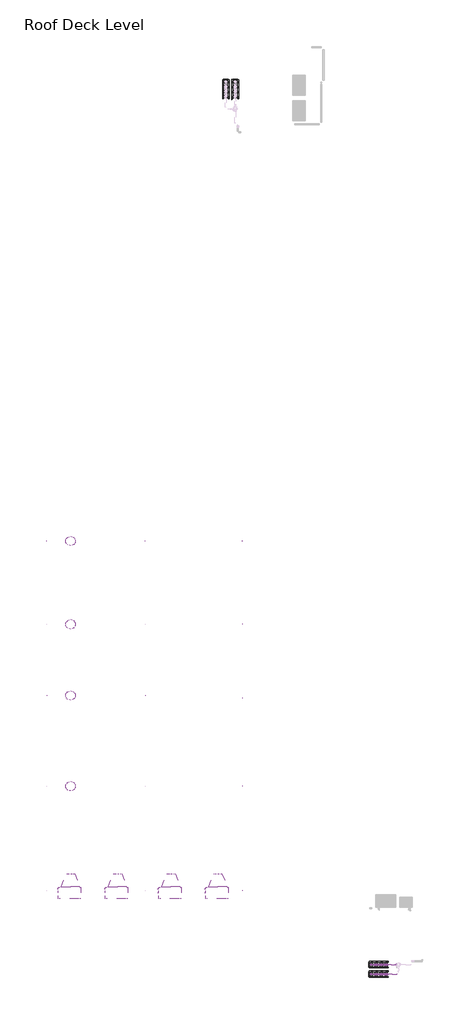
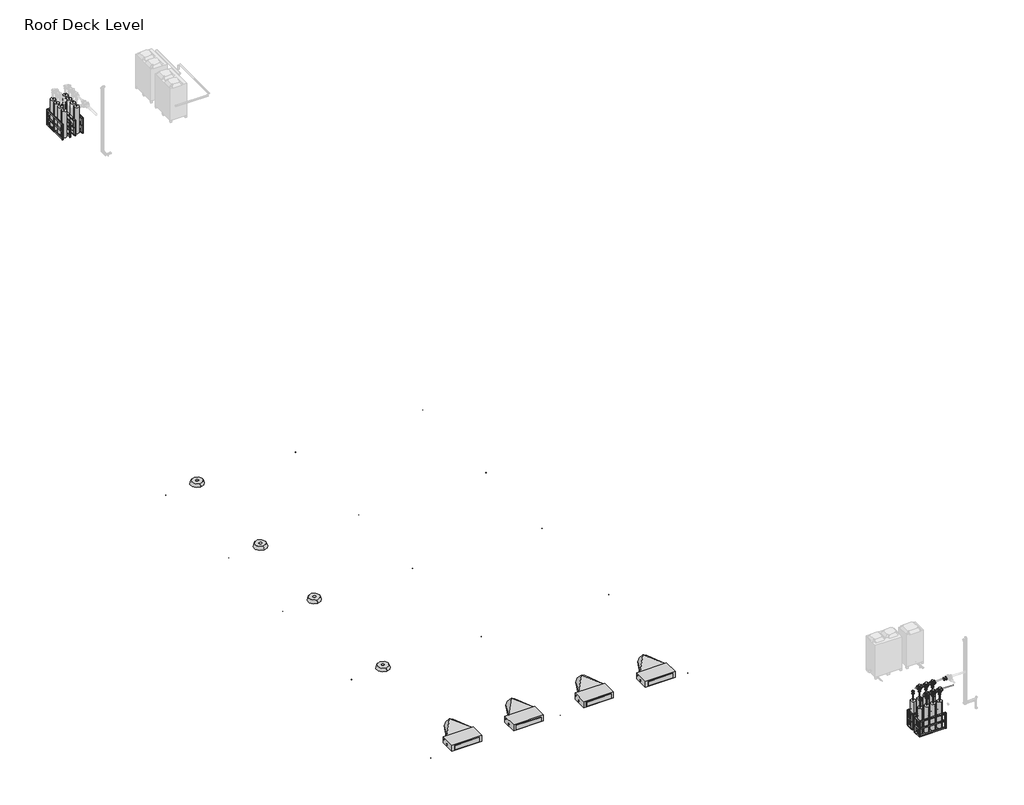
# One storey, part 1 of 3: 16 pipe segments, 15 light fixtures, 15 pipe fittings, 4 air terminals, 4 duct fittings, 4 flow terminals, 4 proxies.
"""IFC4 building model written with IfcOpenShell, lengths in millimetres."""

from ifc_helpers import new_model, si_unit, point, frame, frame_2d, origin, place, context, project, spatial, circle_curve, trimmed, segment, composite_curve, outline, extrude, transform, mapped, element, save
from components import m_supply_diffuser_circular_round_neck_ceiling_mounted_600_mm_208f270a, fcu_daikin_iu_5a1bd61d, m_rectangular_to_round_transition_angle_45_degree_78946b4e, flow_terminal_4c00ecbf, m_studio_light_120v_2dcb9a91, m_reducer_flanged_cs_class_150_standard_b6b67c23, m_reducer_flanged_cs_class_150_standard_6ae1fdcb, m_reducer_flanged_cs_class_150_standard_13db1923, m_tee_round_base_flanged_cs_class_150_standard_9c9133d0

model = new_model("IFC4")

# Units and contexts
model_context = context("Model", 3, world=origin())
ifc_project = project(units=[si_unit("LENGTHUNIT", "METRE", prefix="MILLI")], contexts=[model_context])

# Site, building, storey
site = spatial("IfcSite", under=ifc_project)
building = spatial("IfcBuilding", under=site)
storey = spatial("IfcBuildingStorey", under=building, Name="Roof Deck Level", Elevation=4400.0)

# Air terminals
placement = place(None, origin())
m_supply_diffuser_circular_round_neck_ceiling_mounted_600_mm_shape = m_supply_diffuser_circular_round_neck_ceiling_mounted_600_mm_208f270a(model_context)
element("IfcAirTerminal", 1, ObjectType="M_Supply Diffuser - Circular - Round Neck - Ceiling Mounted : 600 mm Face 500 mm Neck", at=placement, inside=storey, context=model_context, shape_type="MappedRepresentation", body=[
    mapped(m_supply_diffuser_circular_round_neck_ceiling_mounted_600_mm_shape, transform((-16150.3527512, -9864.9909647, 7272.7131214), x_axis=(0.0, 0.9999999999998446, -5.576948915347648e-07), y_axis=(1.0000000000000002, 0.0, 0.0), z_axis=(0.0, -5.576948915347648e-07, -0.9999999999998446))),
])
element("IfcAirTerminal", 2, ObjectType="M_Supply Diffuser - Circular - Round Neck - Ceiling Mounted : 600 mm Face 500 mm Neck", at=placement, inside=storey, context=model_context, shape_type="MappedRepresentation", body=[
    mapped(m_supply_diffuser_circular_round_neck_ceiling_mounted_600_mm_shape, transform((-16150.3527512, -15012.9908891, 7272.7159924), x_axis=(0.0, 0.9999999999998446, -5.576948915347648e-07), y_axis=(1.0000000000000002, 0.0, 0.0), z_axis=(0.0, -5.576948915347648e-07, -0.9999999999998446))),
])
element("IfcAirTerminal", 3, ObjectType="M_Supply Diffuser - Circular - Round Neck - Ceiling Mounted : 600 mm Face 500 mm Neck", at=placement, inside=storey, context=model_context, shape_type="MappedRepresentation", body=[
    mapped(m_supply_diffuser_circular_round_neck_ceiling_mounted_600_mm_shape, transform((-16150.3527512, -19404.9911041, 7272.7184418), x_axis=(0.0, 0.9999999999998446, -5.576948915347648e-07), y_axis=(1.0000000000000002, 0.0, 0.0), z_axis=(0.0, -5.576948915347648e-07, -0.9999999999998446))),
])
element("IfcAirTerminal", 4, ObjectType="M_Supply Diffuser - Circular - Round Neck - Ceiling Mounted : 600 mm Face 500 mm Neck", at=placement, inside=storey, context=model_context, shape_type="MappedRepresentation", body=[
    mapped(m_supply_diffuser_circular_round_neck_ceiling_mounted_600_mm_shape, transform((-16150.3527512, -25004.9911041, 7272.7215649), x_axis=(0.0, 0.9999999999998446, -5.576948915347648e-07), y_axis=(1.0000000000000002, 0.0, 0.0), z_axis=(0.0, -5.576948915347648e-07, -0.9999999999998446))),
])

# Proxies
fcu_daikin_iu_shape = fcu_daikin_iu_5a1bd61d(model_context)
element("IfcBuildingElementProxy", 5, Name="FCU-DAIKIN IU : 12.9kW, 230V/50Hz/1Ph", ObjectType="FCU-DAIKIN IU : 12.9kW, 230V/50Hz/1Ph", at=placement, inside=storey, context=model_context, shape_type="MappedRepresentation", body=[
    mapped(fcu_daikin_iu_shape, transform((-16213.8527512, -31596.4125677, 7600.0), x_axis=(-1.0, 0.0, 0.0), y_axis=(0.0, -1.0, 0.0), z_axis=(0.0, 0.0, 1.0))),
])
element("IfcBuildingElementProxy", 6, Name="FCU-DAIKIN IU : 12.9kW, 230V/50Hz/1Ph", ObjectType="FCU-DAIKIN IU : 12.9kW, 230V/50Hz/1Ph", at=placement, inside=storey, context=model_context, shape_type="MappedRepresentation", body=[
    mapped(fcu_daikin_iu_shape, transform((-13313.8527512, -31596.4125677, 7600.0), x_axis=(-1.0, 0.0, 0.0), y_axis=(0.0, -1.0, 0.0), z_axis=(0.0, 0.0, 1.0))),
])
element("IfcBuildingElementProxy", 7, Name="FCU-DAIKIN IU : 12.9kW, 230V/50Hz/1Ph", ObjectType="FCU-DAIKIN IU : 12.9kW, 230V/50Hz/1Ph", at=placement, inside=storey, context=model_context, shape_type="MappedRepresentation", body=[
    mapped(fcu_daikin_iu_shape, transform((-10013.8527512, -31596.4125677, 7600.0), x_axis=(-1.0, 0.0, 0.0), y_axis=(0.0, -1.0, 0.0), z_axis=(0.0, 0.0, 1.0))),
])
element("IfcBuildingElementProxy", 8, Name="FCU-DAIKIN IU : 12.9kW, 230V/50Hz/1Ph", ObjectType="FCU-DAIKIN IU : 12.9kW, 230V/50Hz/1Ph", at=placement, inside=storey, context=model_context, shape_type="MappedRepresentation", body=[
    mapped(fcu_daikin_iu_shape, transform((-7113.8527512, -31596.4125677, 7600.0), x_axis=(-1.0, 0.0, 0.0), y_axis=(0.0, -1.0, 0.0), z_axis=(0.0, 0.0, 1.0))),
])

# Duct fittings
m_rectangular_to_round_transition_angle_45_degree_shape = m_rectangular_to_round_transition_angle_45_degree_78946b4e(model_context)
element("IfcDuctFitting", 9, ObjectType="M_Rectangular to Round Transition - Angle : 45 Degree", at=placement, inside=storey, context=model_context, shape_type="MappedRepresentation", body=[
    mapped(m_rectangular_to_round_transition_angle_45_degree_shape, transform((-16150.3527512, -31221.0125677, 7765.9125), x_axis=(0.0, 1.0, 0.0), y_axis=(-1.0, 0.0, 0.0), z_axis=(0.0, 0.0, 1.0))),
])
element("IfcDuctFitting", 10, ObjectType="M_Rectangular to Round Transition - Angle : 45 Degree", at=placement, inside=storey, context=model_context, shape_type="MappedRepresentation", body=[
    mapped(m_rectangular_to_round_transition_angle_45_degree_shape, transform((-13250.3527512, -31221.0125677, 7765.9125), x_axis=(0.0, 1.0, 0.0), y_axis=(-1.0, 0.0, 0.0), z_axis=(0.0, 0.0, 1.0))),
])
element("IfcDuctFitting", 11, ObjectType="M_Rectangular to Round Transition - Angle : 45 Degree", at=placement, inside=storey, context=model_context, shape_type="MappedRepresentation", body=[
    mapped(m_rectangular_to_round_transition_angle_45_degree_shape, transform((-9950.3527512, -31221.0125677, 7765.9125), x_axis=(0.0, 1.0, 0.0), y_axis=(-1.0, 0.0, 0.0), z_axis=(0.0, 0.0, 1.0))),
])
element("IfcDuctFitting", 12, ObjectType="M_Rectangular to Round Transition - Angle : 45 Degree", at=placement, inside=storey, context=model_context, shape_type="MappedRepresentation", body=[
    mapped(m_rectangular_to_round_transition_angle_45_degree_shape, transform((-7050.3527512, -31221.0125677, 7765.9125), x_axis=(0.0, 1.0, 0.0), y_axis=(-1.0, 0.0, 0.0), z_axis=(0.0, 0.0, 1.0))),
])

# Flow terminals
flow_terminal_shape = flow_terminal_4c00ecbf(model_context)
element("IfcFlowTerminal", 13, ObjectType="Gas_Cylinder_Rack_4_Tanks_1x4_USAsafetycom_18954 : Gas_Cylinder_Rack_4_Tanks_1x4_USAsafetycom_18954", at=placement, inside=storey, context=model_context, shape_type="MappedRepresentation", body=[
    mapped(flow_terminal_shape, transform((-6181.330502, 18664.3611936, 4550.0), x_axis=(1.0, 0.0, 0.0), y_axis=(0.0, 1.0, 0.0), z_axis=(0.0, 0.0, 1.0))),
])
element("IfcFlowTerminal", 14, ObjectType="Gas_Cylinder_Rack_4_Tanks_1x4_USAsafetycom_18954 : Gas_Cylinder_Rack_4_Tanks_1x4_USAsafetycom_18954", at=placement, inside=storey, context=model_context, shape_type="MappedRepresentation", body=[
    mapped(flow_terminal_shape, transform((-6766.0546656, 18664.3611936, 4550.0), x_axis=(1.0, 0.0, 0.0), y_axis=(0.0, 1.0, 0.0), z_axis=(0.0, 0.0, 1.0))),
])
element("IfcFlowTerminal", 15, ObjectType="Gas_Cylinder_Rack_4_Tanks_1x4_USAsafetycom_18954 : Gas_Cylinder_Rack_4_Tanks_1x4_USAsafetycom_18954", at=placement, inside=storey, context=model_context, shape_type="MappedRepresentation", body=[
    mapped(flow_terminal_shape, transform((2259.9831599, -36236.9985971, 4550.0), x_axis=(0.0, 1.0, 0.0), y_axis=(-1.0, 0.0, 0.0), z_axis=(0.0, 0.0, 1.0))),
])
element("IfcFlowTerminal", 16, ObjectType="Gas_Cylinder_Rack_4_Tanks_1x4_USAsafetycom_18954 : Gas_Cylinder_Rack_4_Tanks_1x4_USAsafetycom_18954", at=placement, inside=storey, context=model_context, shape_type="MappedRepresentation", body=[
    mapped(flow_terminal_shape, transform((2259.9831599, -36821.7227607, 4550.0), x_axis=(0.0, 1.0, 0.0), y_axis=(-1.0, 0.0, 0.0), z_axis=(0.0, 0.0, 1.0))),
])

# Light fixtures
m_studio_light_120v_shape = m_studio_light_120v_2dcb9a91(model_context)
element("IfcLightFixture", 17, ObjectType="M_Studio Light : 120V", at=placement, inside=storey, context=model_context, shape_type="MappedRepresentation", body=[
    mapped(m_studio_light_120v_shape, transform((-11527.2327605, -9864.7846466, 4800.0), x_axis=(1.0, 0.0, 0.0), y_axis=(0.0, 1.0, 0.0), z_axis=(0.0, 0.0, 1.0))),
])
element("IfcLightFixture", 18, ObjectType="M_Studio Light : 120V", at=placement, inside=storey, context=model_context, shape_type="MappedRepresentation", body=[
    mapped(m_studio_light_120v_shape, transform((-11527.2327605, -15012.7846466, 4800.0), x_axis=(1.0, 0.0, 0.0), y_axis=(0.0, 1.0, 0.0), z_axis=(0.0, 0.0, 1.0))),
])
element("IfcLightFixture", 19, ObjectType="M_Studio Light : 120V", at=placement, inside=storey, context=model_context, shape_type="MappedRepresentation", body=[
    mapped(m_studio_light_120v_shape, transform((-11527.2327605, -19404.7846466, 4800.0), x_axis=(1.0, 0.0, 0.0), y_axis=(0.0, 1.0, 0.0), z_axis=(0.0, 0.0, 1.0))),
])
element("IfcLightFixture", 20, ObjectType="M_Studio Light : 120V", at=placement, inside=storey, context=model_context, shape_type="MappedRepresentation", body=[
    mapped(m_studio_light_120v_shape, transform((-11527.2327605, -25004.7846466, 4800.0), x_axis=(1.0, 0.0, 0.0), y_axis=(0.0, 1.0, 0.0), z_axis=(0.0, 0.0, 1.0))),
])
element("IfcLightFixture", 21, ObjectType="M_Studio Light : 120V", at=placement, inside=storey, context=model_context, shape_type="MappedRepresentation", body=[
    mapped(m_studio_light_120v_shape, transform((-11527.2327605, -31454.7846468, 4800.0), x_axis=(1.0, 0.0, 0.0), y_axis=(0.0, 1.0, 0.0), z_axis=(0.0, 0.0, 1.0))),
])
element("IfcLightFixture", 22, ObjectType="M_Studio Light : 120V", at=placement, inside=storey, context=model_context, shape_type="MappedRepresentation", body=[
    mapped(m_studio_light_120v_shape, transform((-17631.8152535, -9864.7846466, 4800.0), x_axis=(1.0, 0.0, 0.0), y_axis=(0.0, 1.0, 0.0), z_axis=(0.0, 0.0, 1.0))),
])
element("IfcLightFixture", 23, ObjectType="M_Studio Light : 120V", at=placement, inside=storey, context=model_context, shape_type="MappedRepresentation", body=[
    mapped(m_studio_light_120v_shape, transform((-17631.8152535, -15012.7846466, 4800.0), x_axis=(1.0, 0.0, 0.0), y_axis=(0.0, 1.0, 0.0), z_axis=(0.0, 0.0, 1.0))),
])
element("IfcLightFixture", 24, ObjectType="M_Studio Light : 120V", at=placement, inside=storey, context=model_context, shape_type="MappedRepresentation", body=[
    mapped(m_studio_light_120v_shape, transform((-17631.8152535, -19404.7846466, 4800.0), x_axis=(1.0, 0.0, 0.0), y_axis=(0.0, 1.0, 0.0), z_axis=(0.0, 0.0, 1.0))),
])
element("IfcLightFixture", 25, ObjectType="M_Studio Light : 120V", at=placement, inside=storey, context=model_context, shape_type="MappedRepresentation", body=[
    mapped(m_studio_light_120v_shape, transform((-17631.8152535, -25004.7846466, 4800.0), x_axis=(1.0, 0.0, 0.0), y_axis=(0.0, 1.0, 0.0), z_axis=(0.0, 0.0, 1.0))),
])
element("IfcLightFixture", 26, ObjectType="M_Studio Light : 120V", at=placement, inside=storey, context=model_context, shape_type="MappedRepresentation", body=[
    mapped(m_studio_light_120v_shape, transform((-17631.8152535, -31454.7846468, 4800.0), x_axis=(1.0, 0.0, 0.0), y_axis=(0.0, 1.0, 0.0), z_axis=(0.0, 0.0, 1.0))),
])
element("IfcLightFixture", 27, ObjectType="M_Studio Light : 120V", at=placement, inside=storey, context=model_context, shape_type="MappedRepresentation", body=[
    mapped(m_studio_light_120v_shape, transform((-5533.240678, -9864.7846466, 4800.0), x_axis=(1.0, 0.0, 0.0), y_axis=(0.0, 1.0, 0.0), z_axis=(0.0, 0.0, 1.0))),
])
element("IfcLightFixture", 28, ObjectType="M_Studio Light : 120V", at=placement, inside=storey, context=model_context, shape_type="MappedRepresentation", body=[
    mapped(m_studio_light_120v_shape, transform((-5533.240678, -15012.7846466, 4800.0), x_axis=(1.0, 0.0, 0.0), y_axis=(0.0, 1.0, 0.0), z_axis=(0.0, 0.0, 1.0))),
])
element("IfcLightFixture", 29, ObjectType="M_Studio Light : 120V", at=placement, inside=storey, context=model_context, shape_type="MappedRepresentation", body=[
    mapped(m_studio_light_120v_shape, transform((-5533.240678, -19574.7846466, 4800.0), x_axis=(1.0, 0.0, 0.0), y_axis=(0.0, 1.0, 0.0), z_axis=(0.0, 0.0, 1.0))),
])
element("IfcLightFixture", 30, ObjectType="M_Studio Light : 120V", at=placement, inside=storey, context=model_context, shape_type="MappedRepresentation", body=[
    mapped(m_studio_light_120v_shape, transform((-5533.240678, -25004.7846466, 4800.0), x_axis=(1.0, 0.0, 0.0), y_axis=(0.0, 1.0, 0.0), z_axis=(0.0, 0.0, 1.0))),
])
element("IfcLightFixture", 31, ObjectType="M_Studio Light : 120V", at=placement, inside=storey, context=model_context, shape_type="MappedRepresentation", body=[
    mapped(m_studio_light_120v_shape, transform((-5533.240678, -31454.7846468, 4800.0), x_axis=(1.0, 0.0, 0.0), y_axis=(0.0, 1.0, 0.0), z_axis=(0.0, 0.0, 1.0))),
])

# Pipe fittings
m_reducer_flanged_cs_class_150_standard_shape = m_reducer_flanged_cs_class_150_standard_b6b67c23(model_context)
element("IfcPipeFitting", 32, ObjectType="M_Reducer - Flanged - CS - Class 150 : Standard", at=placement, inside=storey, context=model_context, shape_type="MappedRepresentation", body=[
    mapped(m_reducer_flanged_cs_class_150_standard_shape, transform((2729.8831599, -36618.5227607, 6293.9014063), x_axis=(0.0, 0.0, -1.0), y_axis=(1.0, 0.0, 0.0), z_axis=(0.0, -1.0, 0.0))),
])
element("IfcPipeFitting", 33, ObjectType="M_Reducer - Flanged - CS - Class 150 : Standard", at=placement, inside=storey, context=model_context, shape_type="MappedRepresentation", body=[
    mapped(m_reducer_flanged_cs_class_150_standard_shape, transform((3339.4831599, -36618.5227607, 6293.9014063), x_axis=(0.0, 0.0, -1.0), y_axis=(1.0, 0.0, 0.0), z_axis=(0.0, -1.0, 0.0))),
])
element("IfcPipeFitting", 34, ObjectType="M_Reducer - Flanged - CS - Class 150 : Standard", at=placement, inside=storey, context=model_context, shape_type="MappedRepresentation", body=[
    mapped(m_reducer_flanged_cs_class_150_standard_shape, transform((2729.8831599, -36033.7985971, 6293.9014063), x_axis=(0.0, 0.0, -1.0), y_axis=(1.0, 0.0, 0.0), z_axis=(0.0, -1.0, 0.0))),
])
element("IfcPipeFitting", 35, ObjectType="M_Reducer - Flanged - CS - Class 150 : Standard", at=placement, inside=storey, context=model_context, shape_type="MappedRepresentation", body=[
    mapped(m_reducer_flanged_cs_class_150_standard_shape, transform((3339.4831599, -36033.7985971, 6293.9014063), x_axis=(0.0, 0.0, -1.0), y_axis=(1.0, 0.0, 0.0), z_axis=(0.0, -1.0, 0.0))),
])
m_reducer_flanged_cs_class_150_standard_2_shape = m_reducer_flanged_cs_class_150_standard_6ae1fdcb(model_context)
element("IfcPipeFitting", 36, ObjectType="M_Reducer - Flanged - CS - Class 150 : Standard", at=placement, inside=storey, context=model_context, shape_type="MappedRepresentation", body=[
    mapped(m_reducer_flanged_cs_class_150_standard_2_shape, transform((2425.0831599, -36618.5227607, 6293.9014063), x_axis=(0.0, 0.0, -1.0), y_axis=(0.0, -1.0, 0.0), z_axis=(-1.0, 0.0, 0.0))),
])
element("IfcPipeFitting", 37, ObjectType="M_Reducer - Flanged - CS - Class 150 : Standard", at=placement, inside=storey, context=model_context, shape_type="MappedRepresentation", body=[
    mapped(m_reducer_flanged_cs_class_150_standard_2_shape, transform((3034.6831599, -36618.5227607, 6293.9014063), x_axis=(0.0, 0.0, -1.0), y_axis=(0.0, -1.0, 0.0), z_axis=(-1.0, 0.0, 0.0))),
])
element("IfcPipeFitting", 38, ObjectType="M_Reducer - Flanged - CS - Class 150 : Standard", at=placement, inside=storey, context=model_context, shape_type="MappedRepresentation", body=[
    mapped(m_reducer_flanged_cs_class_150_standard_2_shape, transform((2425.0831599, -36033.7985971, 6293.9014063), x_axis=(0.0, 0.0, -1.0), y_axis=(0.0, -1.0, 0.0), z_axis=(-1.0, 0.0, 0.0))),
])
element("IfcPipeFitting", 39, ObjectType="M_Reducer - Flanged - CS - Class 150 : Standard", at=placement, inside=storey, context=model_context, shape_type="MappedRepresentation", body=[
    mapped(m_reducer_flanged_cs_class_150_standard_2_shape, transform((3034.6831599, -36033.7985971, 6293.9014063), x_axis=(0.0, 0.0, -1.0), y_axis=(0.0, -1.0, 0.0), z_axis=(-1.0, 0.0, 0.0))),
])
m_reducer_flanged_cs_class_150_standard_3_shape = m_reducer_flanged_cs_class_150_standard_13db1923(model_context)
element("IfcPipeFitting", 40, ObjectType="M_Reducer - Flanged - CS - Class 150 : Standard", at=placement, inside=storey, context=model_context, shape_type="MappedRepresentation", body=[
    mapped(m_reducer_flanged_cs_class_150_standard_3_shape, transform((3991.5817536, -36033.7985971, 6400.0), x_axis=(-1.0, 0.0, 0.0), y_axis=(0.0, -1.0, 0.0), z_axis=(0.0, 0.0, 1.0))),
])
m_tee_round_base_flanged_cs_class_150_standard_shape = m_tee_round_base_flanged_cs_class_150_standard_9c9133d0(model_context)
element("IfcPipeFitting", 41, ObjectType="M_Tee Round Base - Flanged - CS - Class 150 : Standard", at=placement, inside=storey, context=model_context, shape_type="MappedRepresentation", body=[
    mapped(m_tee_round_base_flanged_cs_class_150_standard_shape, transform((2729.8831599, -36618.5227607, 6400.0), x_axis=(-1.0, 0.0, 0.0), y_axis=(0.0, 0.0, 1.0), z_axis=(0.0, 1.0, 0.0))),
])
element("IfcPipeFitting", 42, ObjectType="M_Tee Round Base - Flanged - CS - Class 150 : Standard", at=placement, inside=storey, context=model_context, shape_type="MappedRepresentation", body=[
    mapped(m_tee_round_base_flanged_cs_class_150_standard_shape, transform((3034.6831599, -36618.5227607, 6400.0), x_axis=(-1.0, 0.0, 0.0), y_axis=(0.0, 0.0, 1.0), z_axis=(0.0, 1.0, 0.0))),
])
element("IfcPipeFitting", 43, ObjectType="M_Tee Round Base - Flanged - CS - Class 150 : Standard", at=placement, inside=storey, context=model_context, shape_type="MappedRepresentation", body=[
    mapped(m_tee_round_base_flanged_cs_class_150_standard_shape, transform((3339.4831599, -36618.5227607, 6400.0), x_axis=(1.0, 0.0, 0.0), y_axis=(0.0, 0.0, 1.0), z_axis=(0.0, -1.0, 0.0))),
])
element("IfcPipeFitting", 44, ObjectType="M_Tee Round Base - Flanged - CS - Class 150 : Standard", at=placement, inside=storey, context=model_context, shape_type="MappedRepresentation", body=[
    mapped(m_tee_round_base_flanged_cs_class_150_standard_shape, transform((2729.8831599, -36033.7985971, 6400.0), x_axis=(-1.0, 0.0, 0.0), y_axis=(0.0, 0.0, 1.0), z_axis=(0.0, 1.0, 0.0))),
])
element("IfcPipeFitting", 45, ObjectType="M_Tee Round Base - Flanged - CS - Class 150 : Standard", at=placement, inside=storey, context=model_context, shape_type="MappedRepresentation", body=[
    mapped(m_tee_round_base_flanged_cs_class_150_standard_shape, transform((3034.6831599, -36033.7985971, 6400.0), x_axis=(-1.0, 0.0, 0.0), y_axis=(0.0, 0.0, 1.0), z_axis=(0.0, 1.0, 0.0))),
])
element("IfcPipeFitting", 46, ObjectType="M_Tee Round Base - Flanged - CS - Class 150 : Standard", at=placement, inside=storey, context=model_context, shape_type="MappedRepresentation", body=[
    mapped(m_tee_round_base_flanged_cs_class_150_standard_shape, transform((3339.4831599, -36033.7985971, 6400.0), x_axis=(1.0, 0.0, 0.0), y_axis=(0.0, 0.0, 1.0), z_axis=(0.0, -1.0, 0.0))),
])

# Pipe segments
element("IfcPipeSegment", 47, ObjectType="Steel flanged", at=placement, inside=storey, context=model_context, shape_type="SweptSolid", body=[
    extrude(outline(composite_curve([segment(trimmed(circle_curve(frame_2d((3339.4831599, -36618.5227607)), 16.7005), [point((3322.7826599, -36618.5227607))], [point((3339.4831599, -36601.8222607))], False, "CARTESIAN"), True, "CONTINUOUS"), segment(trimmed(circle_curve(frame_2d((3339.4831599, -36618.5227607)), 16.7005), [point((3339.4831599, -36601.8222607))], [point((3356.1836599, -36618.5227607))], False, "CARTESIAN"), True, "CONTINUOUS"), segment(trimmed(circle_curve(frame_2d((3339.4831599, -36618.5227607)), 16.7005), [point((3356.1836599, -36618.5227607))], [point((3339.4831599, -36635.2232607))], False, "CARTESIAN"), True, "CONTINUOUS"), segment(trimmed(circle_curve(frame_2d((3339.4831599, -36618.5227607)), 16.7005), [point((3339.4831599, -36635.2232607))], [point((3322.7826599, -36618.5227607))], False, "CARTESIAN"), True, "CONTINUOUS")], self_intersect=False)), frame((0.0, 0.0, 5895.4), z_axis=(0.0, 0.0, 1.0), x_axis=(1.0, 0.0, 0.0)), (0.0, 0.0, 1.0), 284.5014063),
])
element("IfcPipeSegment", 48, ObjectType="Steel flanged", at=placement, inside=storey, context=model_context, shape_type="SweptSolid", body=[
    extrude(outline(composite_curve([segment(trimmed(circle_curve(frame_2d((-36618.5227607, 6400.0)), 21.082), [point((-36639.6047607, 6400.0))], [point((-36618.5227607, 6421.082))], False, "CARTESIAN"), True, "CONTINUOUS"), segment(trimmed(circle_curve(frame_2d((-36618.5227607, 6400.0)), 21.082), [point((-36618.5227607, 6421.082))], [point((-36597.4407607, 6400.0))], False, "CARTESIAN"), True, "CONTINUOUS"), segment(trimmed(circle_curve(frame_2d((-36618.5227607, 6400.0)), 21.082), [point((-36597.4407607, 6400.0))], [point((-36618.5227607, 6378.918))], False, "CARTESIAN"), True, "CONTINUOUS"), segment(trimmed(circle_curve(frame_2d((-36618.5227607, 6400.0)), 21.082), [point((-36618.5227607, 6378.918))], [point((-36639.6047607, 6400.0))], False, "CARTESIAN"), True, "CONTINUOUS")], self_intersect=False)), frame((3140.7817536, 0.0, 0.0), z_axis=(1.0, 0.0, 0.0), x_axis=(0.0, 1.0, 0.0)), (0.0, 0.0, 1.0), 92.6028125),
])
element("IfcPipeSegment", 49, ObjectType="Steel flanged", at=placement, inside=storey, context=model_context, shape_type="SweptSolid", body=[
    extrude(outline(composite_curve([segment(trimmed(circle_curve(frame_2d((2425.0831599, -36618.5227607)), 16.7005), [point((2408.3826599, -36618.5227607))], [point((2425.0831599, -36601.8222607))], False, "CARTESIAN"), True, "CONTINUOUS"), segment(trimmed(circle_curve(frame_2d((2425.0831599, -36618.5227607)), 16.7005), [point((2425.0831599, -36601.8222607))], [point((2441.7836599, -36618.5227607))], False, "CARTESIAN"), True, "CONTINUOUS"), segment(trimmed(circle_curve(frame_2d((2425.0831599, -36618.5227607)), 16.7005), [point((2441.7836599, -36618.5227607))], [point((2425.0831599, -36635.2232607))], False, "CARTESIAN"), True, "CONTINUOUS"), segment(trimmed(circle_curve(frame_2d((2425.0831599, -36618.5227607)), 16.7005), [point((2425.0831599, -36635.2232607))], [point((2408.3826599, -36618.5227607))], False, "CARTESIAN"), True, "CONTINUOUS")], self_intersect=False)), frame((0.0, 0.0, 5895.4), z_axis=(0.0, 0.0, 1.0), x_axis=(1.0, 0.0, 0.0)), (0.0, 0.0, 1.0), 284.5014063),
])
element("IfcPipeSegment", 50, ObjectType="Steel flanged", at=placement, inside=storey, context=model_context, shape_type="SweptSolid", body=[
    extrude(outline(composite_curve([segment(trimmed(circle_curve(frame_2d((-36618.5227607, 6400.0)), 21.082), [point((-36639.6047607, 6400.0))], [point((-36618.5227607, 6421.082))], False, "CARTESIAN"), True, "CONTINUOUS"), segment(trimmed(circle_curve(frame_2d((-36618.5227607, 6400.0)), 21.082), [point((-36618.5227607, 6421.082))], [point((-36597.4407607, 6400.0))], False, "CARTESIAN"), True, "CONTINUOUS"), segment(trimmed(circle_curve(frame_2d((-36618.5227607, 6400.0)), 21.082), [point((-36597.4407607, 6400.0))], [point((-36618.5227607, 6378.918))], False, "CARTESIAN"), True, "CONTINUOUS"), segment(trimmed(circle_curve(frame_2d((-36618.5227607, 6400.0)), 21.082), [point((-36618.5227607, 6378.918))], [point((-36639.6047607, 6400.0))], False, "CARTESIAN"), True, "CONTINUOUS")], self_intersect=False)), frame((2531.1817536, 0.0, 0.0), z_axis=(1.0, 0.0, 0.0), x_axis=(0.0, 1.0, 0.0)), (0.0, 0.0, 1.0), 92.6028125),
])
element("IfcPipeSegment", 51, ObjectType="Steel flanged", at=placement, inside=storey, context=model_context, shape_type="SweptSolid", body=[
    extrude(outline(composite_curve([segment(trimmed(circle_curve(frame_2d((2729.8831599, -36618.5227607)), 16.7005), [point((2713.1826599, -36618.5227607))], [point((2729.8831599, -36601.8222607))], False, "CARTESIAN"), True, "CONTINUOUS"), segment(trimmed(circle_curve(frame_2d((2729.8831599, -36618.5227607)), 16.7005), [point((2729.8831599, -36601.8222607))], [point((2746.5836599, -36618.5227607))], False, "CARTESIAN"), True, "CONTINUOUS"), segment(trimmed(circle_curve(frame_2d((2729.8831599, -36618.5227607)), 16.7005), [point((2746.5836599, -36618.5227607))], [point((2729.8831599, -36635.2232607))], False, "CARTESIAN"), True, "CONTINUOUS"), segment(trimmed(circle_curve(frame_2d((2729.8831599, -36618.5227607)), 16.7005), [point((2729.8831599, -36635.2232607))], [point((2713.1826599, -36618.5227607))], False, "CARTESIAN"), True, "CONTINUOUS")], self_intersect=False)), frame((0.0, 0.0, 5895.4), z_axis=(0.0, 0.0, 1.0), x_axis=(1.0, 0.0, 0.0)), (0.0, 0.0, 1.0), 284.5014063),
])
element("IfcPipeSegment", 52, ObjectType="Steel flanged", at=placement, inside=storey, context=model_context, shape_type="SweptSolid", body=[
    extrude(outline(composite_curve([segment(trimmed(circle_curve(frame_2d((-36618.5227607, 6400.0)), 21.082), [point((-36639.6047607, 6400.0))], [point((-36618.5227607, 6421.082))], False, "CARTESIAN"), True, "CONTINUOUS"), segment(trimmed(circle_curve(frame_2d((-36618.5227607, 6400.0)), 21.082), [point((-36618.5227607, 6421.082))], [point((-36597.4407607, 6400.0))], False, "CARTESIAN"), True, "CONTINUOUS"), segment(trimmed(circle_curve(frame_2d((-36618.5227607, 6400.0)), 21.082), [point((-36597.4407607, 6400.0))], [point((-36618.5227607, 6378.918))], False, "CARTESIAN"), True, "CONTINUOUS"), segment(trimmed(circle_curve(frame_2d((-36618.5227607, 6400.0)), 21.082), [point((-36618.5227607, 6378.918))], [point((-36639.6047607, 6400.0))], False, "CARTESIAN"), True, "CONTINUOUS")], self_intersect=False)), frame((2835.9817536, 0.0, 0.0), z_axis=(1.0, 0.0, 0.0), x_axis=(0.0, 1.0, 0.0)), (0.0, 0.0, 1.0), 92.6028125),
])
element("IfcPipeSegment", 53, ObjectType="Steel flanged", at=placement, inside=storey, context=model_context, shape_type="SweptSolid", body=[
    extrude(outline(composite_curve([segment(trimmed(circle_curve(frame_2d((3034.6831599, -36618.5227607)), 16.7005), [point((3017.9826599, -36618.5227607))], [point((3034.6831599, -36601.8222607))], False, "CARTESIAN"), True, "CONTINUOUS"), segment(trimmed(circle_curve(frame_2d((3034.6831599, -36618.5227607)), 16.7005), [point((3034.6831599, -36601.8222607))], [point((3051.3836599, -36618.5227607))], False, "CARTESIAN"), True, "CONTINUOUS"), segment(trimmed(circle_curve(frame_2d((3034.6831599, -36618.5227607)), 16.7005), [point((3051.3836599, -36618.5227607))], [point((3034.6831599, -36635.2232607))], False, "CARTESIAN"), True, "CONTINUOUS"), segment(trimmed(circle_curve(frame_2d((3034.6831599, -36618.5227607)), 16.7005), [point((3034.6831599, -36635.2232607))], [point((3017.9826599, -36618.5227607))], False, "CARTESIAN"), True, "CONTINUOUS")], self_intersect=False)), frame((0.0, 0.0, 5895.4), z_axis=(0.0, 0.0, 1.0), x_axis=(1.0, 0.0, 0.0)), (0.0, 0.0, 1.0), 284.5014063),
])
element("IfcPipeSegment", 54, ObjectType="Steel flanged", at=placement, inside=storey, context=model_context, shape_type="SweptSolid", body=[
    extrude(outline(composite_curve([segment(trimmed(circle_curve(frame_2d((-36618.5227607, 6400.0)), 21.082), [point((-36639.6047607, 6400.0))], [point((-36618.5227607, 6421.082))], False, "CARTESIAN"), True, "CONTINUOUS"), segment(trimmed(circle_curve(frame_2d((-36618.5227607, 6400.0)), 21.082), [point((-36618.5227607, 6421.082))], [point((-36597.4407607, 6400.0))], False, "CARTESIAN"), True, "CONTINUOUS"), segment(trimmed(circle_curve(frame_2d((-36618.5227607, 6400.0)), 21.082), [point((-36597.4407607, 6400.0))], [point((-36618.5227607, 6378.918))], False, "CARTESIAN"), True, "CONTINUOUS"), segment(trimmed(circle_curve(frame_2d((-36618.5227607, 6400.0)), 21.082), [point((-36618.5227607, 6378.918))], [point((-36639.6047607, 6400.0))], False, "CARTESIAN"), True, "CONTINUOUS")], self_intersect=False)), frame((3445.5817536, 0.0, 0.0), z_axis=(1.0, 0.0, 0.0), x_axis=(0.0, 1.0, 0.0)), (0.0, 0.0, 1.0), 553.9014063),
])
element("IfcPipeSegment", 55, ObjectType="Steel flanged", at=placement, inside=storey, context=model_context, shape_type="SweptSolid", body=[
    extrude(outline(composite_curve([segment(trimmed(circle_curve(frame_2d((-36033.7985971, 6400.0)), 21.082), [point((-36054.8805971, 6400.0))], [point((-36033.7985971, 6421.082))], False, "CARTESIAN"), True, "CONTINUOUS"), segment(trimmed(circle_curve(frame_2d((-36033.7985971, 6400.0)), 21.082), [point((-36033.7985971, 6421.082))], [point((-36012.7165971, 6400.0))], False, "CARTESIAN"), True, "CONTINUOUS"), segment(trimmed(circle_curve(frame_2d((-36033.7985971, 6400.0)), 21.082), [point((-36012.7165971, 6400.0))], [point((-36033.7985971, 6378.918))], False, "CARTESIAN"), True, "CONTINUOUS"), segment(trimmed(circle_curve(frame_2d((-36033.7985971, 6400.0)), 21.082), [point((-36033.7985971, 6378.918))], [point((-36054.8805971, 6400.0))], False, "CARTESIAN"), True, "CONTINUOUS")], self_intersect=False)), frame((3140.7817536, 0.0, 0.0), z_axis=(1.0, 0.0, 0.0), x_axis=(0.0, 1.0, 0.0)), (0.0, 0.0, 1.0), 92.6028125),
])
element("IfcPipeSegment", 56, ObjectType="Steel flanged", at=placement, inside=storey, context=model_context, shape_type="SweptSolid", body=[
    extrude(outline(composite_curve([segment(trimmed(circle_curve(frame_2d((-36033.7985971, 6400.0)), 21.082), [point((-36054.8805971, 6400.0))], [point((-36033.7985971, 6421.082))], False, "CARTESIAN"), True, "CONTINUOUS"), segment(trimmed(circle_curve(frame_2d((-36033.7985971, 6400.0)), 21.082), [point((-36033.7985971, 6421.082))], [point((-36012.7165971, 6400.0))], False, "CARTESIAN"), True, "CONTINUOUS"), segment(trimmed(circle_curve(frame_2d((-36033.7985971, 6400.0)), 21.082), [point((-36012.7165971, 6400.0))], [point((-36033.7985971, 6378.918))], False, "CARTESIAN"), True, "CONTINUOUS"), segment(trimmed(circle_curve(frame_2d((-36033.7985971, 6400.0)), 21.082), [point((-36033.7985971, 6378.918))], [point((-36054.8805971, 6400.0))], False, "CARTESIAN"), True, "CONTINUOUS")], self_intersect=False)), frame((2531.1817536, 0.0, 0.0), z_axis=(1.0, 0.0, 0.0), x_axis=(0.0, 1.0, 0.0)), (0.0, 0.0, 1.0), 92.6028125),
])
element("IfcPipeSegment", 57, ObjectType="Steel flanged", at=placement, inside=storey, context=model_context, shape_type="SweptSolid", body=[
    extrude(outline(composite_curve([segment(trimmed(circle_curve(frame_2d((-36033.7985971, 6400.0)), 21.082), [point((-36054.8805971, 6400.0))], [point((-36033.7985971, 6421.082))], False, "CARTESIAN"), True, "CONTINUOUS"), segment(trimmed(circle_curve(frame_2d((-36033.7985971, 6400.0)), 21.082), [point((-36033.7985971, 6421.082))], [point((-36012.7165971, 6400.0))], False, "CARTESIAN"), True, "CONTINUOUS"), segment(trimmed(circle_curve(frame_2d((-36033.7985971, 6400.0)), 21.082), [point((-36012.7165971, 6400.0))], [point((-36033.7985971, 6378.918))], False, "CARTESIAN"), True, "CONTINUOUS"), segment(trimmed(circle_curve(frame_2d((-36033.7985971, 6400.0)), 21.082), [point((-36033.7985971, 6378.918))], [point((-36054.8805971, 6400.0))], False, "CARTESIAN"), True, "CONTINUOUS")], self_intersect=False)), frame((2835.9817536, 0.0, 0.0), z_axis=(1.0, 0.0, 0.0), x_axis=(0.0, 1.0, 0.0)), (0.0, 0.0, 1.0), 92.6028125),
])
element("IfcPipeSegment", 58, ObjectType="Steel flanged", at=placement, inside=storey, context=model_context, shape_type="SweptSolid", body=[
    extrude(outline(composite_curve([segment(trimmed(circle_curve(frame_2d((2425.0831599, -36033.7985971)), 16.7005), [point((2441.7836599, -36033.7985971))], [point((2425.0831599, -36050.4990971))], False, "CARTESIAN"), True, "CONTINUOUS"), segment(trimmed(circle_curve(frame_2d((2425.0831599, -36033.7985971)), 16.7005), [point((2425.0831599, -36050.4990971))], [point((2408.3826599, -36033.7985971))], False, "CARTESIAN"), True, "CONTINUOUS"), segment(trimmed(circle_curve(frame_2d((2425.0831599, -36033.7985971)), 16.7005), [point((2408.3826599, -36033.7985971))], [point((2425.0831599, -36017.0980971))], False, "CARTESIAN"), True, "CONTINUOUS"), segment(trimmed(circle_curve(frame_2d((2425.0831599, -36033.7985971)), 16.7005), [point((2425.0831599, -36017.0980971))], [point((2441.7836599, -36033.7985971))], False, "CARTESIAN"), True, "CONTINUOUS")], self_intersect=False)), frame((0.0, 0.0, 5895.4), z_axis=(0.0, 0.0, 1.0), x_axis=(1.0, 0.0, 0.0)), (0.0, 0.0, 1.0), 284.5014063),
])
element("IfcPipeSegment", 59, ObjectType="Steel flanged", at=placement, inside=storey, context=model_context, shape_type="SweptSolid", body=[
    extrude(outline(composite_curve([segment(trimmed(circle_curve(frame_2d((2729.8831599, -36033.7985971)), 16.7005), [point((2746.5836599, -36033.7985971))], [point((2729.8831599, -36050.4990971))], False, "CARTESIAN"), True, "CONTINUOUS"), segment(trimmed(circle_curve(frame_2d((2729.8831599, -36033.7985971)), 16.7005), [point((2729.8831599, -36050.4990971))], [point((2713.1826599, -36033.7985971))], False, "CARTESIAN"), True, "CONTINUOUS"), segment(trimmed(circle_curve(frame_2d((2729.8831599, -36033.7985971)), 16.7005), [point((2713.1826599, -36033.7985971))], [point((2729.8831599, -36017.0980971))], False, "CARTESIAN"), True, "CONTINUOUS"), segment(trimmed(circle_curve(frame_2d((2729.8831599, -36033.7985971)), 16.7005), [point((2729.8831599, -36017.0980971))], [point((2746.5836599, -36033.7985971))], False, "CARTESIAN"), True, "CONTINUOUS")], self_intersect=False)), frame((0.0, 0.0, 5895.4), z_axis=(0.0, 0.0, 1.0), x_axis=(1.0, 0.0, 0.0)), (0.0, 0.0, 1.0), 284.5014063),
])
element("IfcPipeSegment", 60, ObjectType="Steel flanged", at=placement, inside=storey, context=model_context, shape_type="SweptSolid", body=[
    extrude(outline(composite_curve([segment(trimmed(circle_curve(frame_2d((3034.6831599, -36033.7985971)), 16.7005), [point((3051.3836599, -36033.7985971))], [point((3034.6831599, -36050.4990971))], False, "CARTESIAN"), True, "CONTINUOUS"), segment(trimmed(circle_curve(frame_2d((3034.6831599, -36033.7985971)), 16.7005), [point((3034.6831599, -36050.4990971))], [point((3017.9826599, -36033.7985971))], False, "CARTESIAN"), True, "CONTINUOUS"), segment(trimmed(circle_curve(frame_2d((3034.6831599, -36033.7985971)), 16.7005), [point((3017.9826599, -36033.7985971))], [point((3034.6831599, -36017.0980971))], False, "CARTESIAN"), True, "CONTINUOUS"), segment(trimmed(circle_curve(frame_2d((3034.6831599, -36033.7985971)), 16.7005), [point((3034.6831599, -36017.0980971))], [point((3051.3836599, -36033.7985971))], False, "CARTESIAN"), True, "CONTINUOUS")], self_intersect=False)), frame((0.0, 0.0, 5895.4), z_axis=(0.0, 0.0, 1.0), x_axis=(1.0, 0.0, 0.0)), (0.0, 0.0, 1.0), 284.5014063),
])
element("IfcPipeSegment", 61, ObjectType="Steel flanged", at=placement, inside=storey, context=model_context, shape_type="SweptSolid", body=[
    extrude(outline(composite_curve([segment(trimmed(circle_curve(frame_2d((3339.4831599, -36033.7985971)), 16.7005), [point((3356.1836599, -36033.7985971))], [point((3339.4831599, -36050.4990971))], False, "CARTESIAN"), True, "CONTINUOUS"), segment(trimmed(circle_curve(frame_2d((3339.4831599, -36033.7985971)), 16.7005), [point((3339.4831599, -36050.4990971))], [point((3322.7826599, -36033.7985971))], False, "CARTESIAN"), True, "CONTINUOUS"), segment(trimmed(circle_curve(frame_2d((3339.4831599, -36033.7985971)), 16.7005), [point((3322.7826599, -36033.7985971))], [point((3339.4831599, -36017.0980971))], False, "CARTESIAN"), True, "CONTINUOUS"), segment(trimmed(circle_curve(frame_2d((3339.4831599, -36033.7985971)), 16.7005), [point((3339.4831599, -36017.0980971))], [point((3356.1836599, -36033.7985971))], False, "CARTESIAN"), True, "CONTINUOUS")], self_intersect=False)), frame((0.0, 0.0, 5895.4), z_axis=(0.0, 0.0, 1.0), x_axis=(1.0, 0.0, 0.0)), (0.0, 0.0, 1.0), 284.5014063),
])
element("IfcPipeSegment", 62, ObjectType="Steel flanged", at=placement, inside=storey, context=model_context, shape_type="SweptSolid", body=[
    extrude(outline(composite_curve([segment(trimmed(circle_curve(frame_2d((-36033.7985971, 6400.0)), 21.082), [point((-36054.8805971, 6400.0))], [point((-36033.7985971, 6421.082))], False, "CARTESIAN"), True, "CONTINUOUS"), segment(trimmed(circle_curve(frame_2d((-36033.7985971, 6400.0)), 21.082), [point((-36033.7985971, 6421.082))], [point((-36012.7165971, 6400.0))], False, "CARTESIAN"), True, "CONTINUOUS"), segment(trimmed(circle_curve(frame_2d((-36033.7985971, 6400.0)), 21.082), [point((-36012.7165971, 6400.0))], [point((-36033.7985971, 6378.918))], False, "CARTESIAN"), True, "CONTINUOUS"), segment(trimmed(circle_curve(frame_2d((-36033.7985971, 6400.0)), 21.082), [point((-36033.7985971, 6378.918))], [point((-36054.8805971, 6400.0))], False, "CARTESIAN"), True, "CONTINUOUS")], self_intersect=False)), frame((3445.5817536, 0.0, 0.0), z_axis=(1.0, 0.0, 0.0), x_axis=(0.0, 1.0, 0.0)), (0.0, 0.0, 1.0), 419.0),
])

save(model, "model.ifc")
